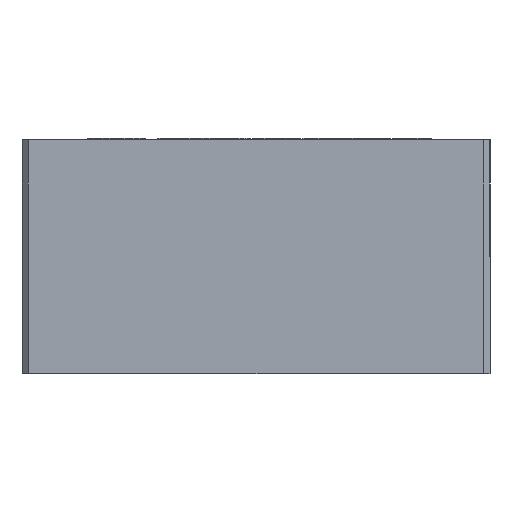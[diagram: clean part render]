
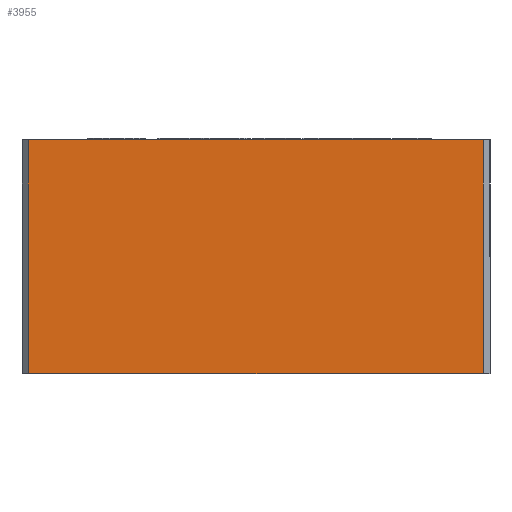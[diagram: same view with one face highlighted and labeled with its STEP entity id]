
A CAD part, front view. The second image highlights one B-rep face of the part: STEP entity #3955.
In plain terms, the highlighted planar face has unit normal (0, -1, 0).
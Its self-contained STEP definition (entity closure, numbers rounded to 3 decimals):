
#380 = EDGE_LOOP ( 'NONE', ( #11286, #17508, #16829, #1505 ) ) ;
#629 = LINE ( 'NONE', #13836, #19019 ) ;
#1481 = DIRECTION ( 'NONE',  ( 0., 1., 0. ) ) ;
#1505 = ORIENTED_EDGE ( 'NONE', *, *, #13206, .T. ) ;
#2406 = CARTESIAN_POINT ( 'NONE',  ( 17.5, 0., -9. ) ) ;
#3096 = VECTOR ( 'NONE', #17214, 1000. ) ;
#3277 = PLANE ( 'NONE',  #3833 ) ;
#3499 = DIRECTION ( 'NONE',  ( 0., 0., 1. ) ) ;
#3833 = AXIS2_PLACEMENT_3D ( 'NONE', #15363, #1481, #3499 ) ;
#3955 = ADVANCED_FACE ( 'NONE', ( #17463 ), #3277, .F. ) ;
#4035 = CARTESIAN_POINT ( 'NONE',  ( -17.5, 0., -9. ) ) ;
#4340 = CARTESIAN_POINT ( 'NONE',  ( -17.5, 0., 9. ) ) ;
#4482 = VERTEX_POINT ( 'NONE', #9855 ) ;
#5676 = VECTOR ( 'NONE', #11165, 1000. ) ;
#5880 = VERTEX_POINT ( 'NONE', #2406 ) ;
#7618 = LINE ( 'NONE', #8492, #3096 ) ;
#8492 = CARTESIAN_POINT ( 'NONE',  ( -18., 0., 9. ) ) ;
#8662 = VERTEX_POINT ( 'NONE', #4035 ) ;
#9842 = CARTESIAN_POINT ( 'NONE',  ( -17.5, 0., 9. ) ) ;
#9855 = CARTESIAN_POINT ( 'NONE',  ( 17.5, 0., 9. ) ) ;
#11165 = DIRECTION ( 'NONE',  ( 1., 0., 0. ) ) ;
#11286 = ORIENTED_EDGE ( 'NONE', *, *, #19398, .F. ) ;
#11810 = VERTEX_POINT ( 'NONE', #4340 ) ;
#11859 = VECTOR ( 'NONE', #19992, 1000. ) ;
#12051 = EDGE_CURVE ( 'NONE', #11810, #8662, #16698, .T. ) ;
#13206 = EDGE_CURVE ( 'NONE', #5880, #4482, #629, .T. ) ;
#13507 = EDGE_CURVE ( 'NONE', #8662, #5880, #13935, .T. ) ;
#13544 = DIRECTION ( 'NONE',  ( 0., 0., 1. ) ) ;
#13836 = CARTESIAN_POINT ( 'NONE',  ( 17.5, 0., 9. ) ) ;
#13935 = LINE ( 'NONE', #18167, #5676 ) ;
#15363 = CARTESIAN_POINT ( 'NONE',  ( -18., 0., 9. ) ) ;
#16698 = LINE ( 'NONE', #9842, #11859 ) ;
#16829 = ORIENTED_EDGE ( 'NONE', *, *, #13507, .T. ) ;
#17214 = DIRECTION ( 'NONE',  ( 1., 0., 0. ) ) ;
#17463 = FACE_OUTER_BOUND ( 'NONE', #380, .T. ) ;
#17508 = ORIENTED_EDGE ( 'NONE', *, *, #12051, .T. ) ;
#18167 = CARTESIAN_POINT ( 'NONE',  ( -18., 0., -9. ) ) ;
#19019 = VECTOR ( 'NONE', #13544, 1000. ) ;
#19398 = EDGE_CURVE ( 'NONE', #11810, #4482, #7618, .T. ) ;
#19992 = DIRECTION ( 'NONE',  ( 0., 0., -1. ) ) ;
